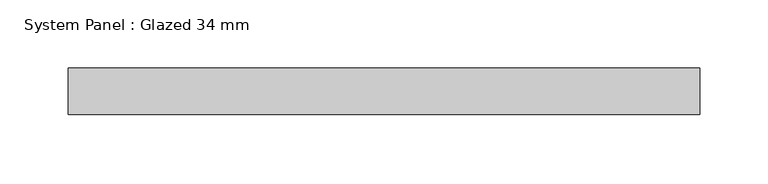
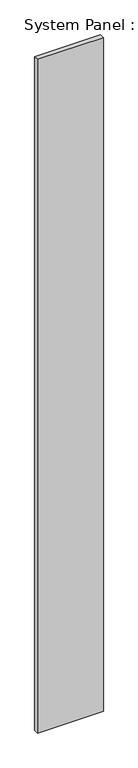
"""IFC4 building model written with IfcOpenShell, lengths in millimetres: plate geometry, System Panel : Glazed 34 mm."""

from ifc_helpers import new_model, si_unit, origin, origin_with_axes, place, context, project, spatial, polyline, outline, extrude, source, transform, mapped, element, save


def system_panel_glazed_34_mm_0fb1e270(model_context):
    return source(origin(), model_context, "Body", "SweptSolid", [
        extrude(outline(polyline([(231.1083333, -17.0), (-231.1083333, -17.0), (-231.1083333, 17.0), (231.1083333, 17.0), (231.1083333, -17.0)])), origin_with_axes(), (0.0, 0.0, 1.0), 5000.0),
    ])


if __name__ == "__main__":
    model = new_model("IFC4")
    model_context = context("Model", 3, world=origin())
    ifc_project = project(units=[si_unit("LENGTHUNIT", "METRE", prefix="MILLI")], contexts=[model_context])
    site = spatial("IfcSite", under=ifc_project)
    building = spatial("IfcBuilding", under=site)
    placement = place(None, origin())
    system_panel_glazed_34_mm_shape = system_panel_glazed_34_mm_0fb1e270(model_context)
    element("IfcPlate", 1, ObjectType="System Panel : Glazed 34 mm", at=placement, inside=building, context=model_context, shape_type="MappedRepresentation", body=[
        mapped(system_panel_glazed_34_mm_shape, transform((0.0, 0.0, 0.0), x_axis=(1.0, 0.0, 0.0), y_axis=(0.0, 1.0, 0.0), z_axis=(0.0, 0.0, 1.0))),
    ])
    save(model, "model.ifc")
